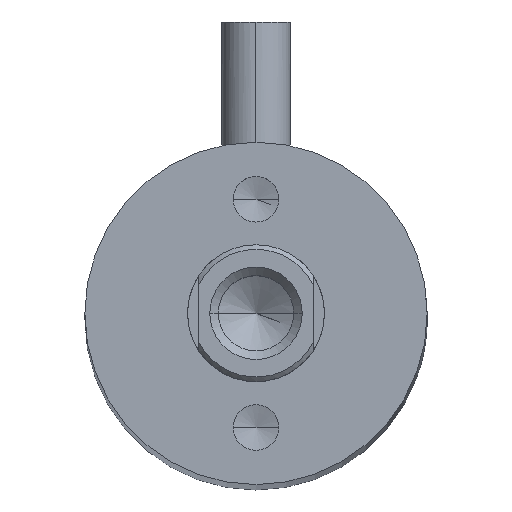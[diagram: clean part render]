
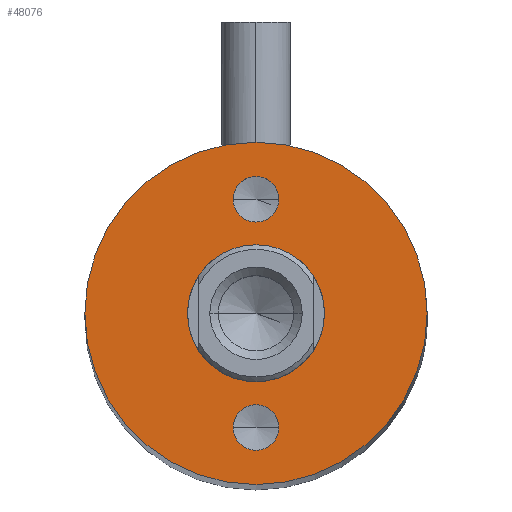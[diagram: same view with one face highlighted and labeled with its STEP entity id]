
A CAD part, top view. The second image highlights one B-rep face of the part: STEP entity #48076.
In plain terms, the highlighted planar face has unit normal (0, 0, 1).
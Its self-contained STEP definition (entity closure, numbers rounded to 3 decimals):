
#11 = EDGE_CURVE ( 'NONE', #25494, #42954, #5517, .T. ) ;
#620 = CARTESIAN_POINT ( 'NONE',  ( 0., -5., 136.6 ) ) ;
#1164 = CIRCLE ( 'NONE', #9692, 7.5 ) ;
#2182 = CARTESIAN_POINT ( 'NONE',  ( 3., 0., 136.6 ) ) ;
#2311 = AXIS2_PLACEMENT_3D ( 'NONE', #44979, #13424, #44822 ) ;
#3927 = AXIS2_PLACEMENT_3D ( 'NONE', #620, #16580, #20468 ) ;
#4240 = DIRECTION ( 'NONE',  ( 0., 0., 1. ) ) ;
#4498 = EDGE_LOOP ( 'NONE', ( #44372, #41160 ) ) ;
#5517 = CIRCLE ( 'NONE', #2311, 3. ) ;
#5663 = VERTEX_POINT ( 'NONE', #48152 ) ;
#6813 = ORIENTED_EDGE ( 'NONE', *, *, #37596, .F. ) ;
#7596 = CIRCLE ( 'NONE', #32446, 1. ) ;
#8331 = EDGE_CURVE ( 'NONE', #21283, #15723, #45139, .T. ) ;
#8568 = CARTESIAN_POINT ( 'NONE',  ( -7.5, 0., 136.6 ) ) ;
#9415 = EDGE_CURVE ( 'NONE', #21967, #5663, #19595, .T. ) ;
#9692 = AXIS2_PLACEMENT_3D ( 'NONE', #10191, #13750, #21724 ) ;
#10191 = CARTESIAN_POINT ( 'NONE',  ( 0., 0., 136.6 ) ) ;
#10315 = CARTESIAN_POINT ( 'NONE',  ( -3., 0., 136.6 ) ) ;
#10939 = DIRECTION ( 'NONE',  ( 0., 0., 1. ) ) ;
#11034 = AXIS2_PLACEMENT_3D ( 'NONE', #50032, #38534, #26490 ) ;
#11893 = CARTESIAN_POINT ( 'NONE',  ( 1., -5., 136.6 ) ) ;
#13424 = DIRECTION ( 'NONE',  ( 0., 0., 1. ) ) ;
#13750 = DIRECTION ( 'NONE',  ( 0., 0., 1. ) ) ;
#14479 = DIRECTION ( 'NONE',  ( 0., 0., 1. ) ) ;
#15723 = VERTEX_POINT ( 'NONE', #45405 ) ;
#15980 = CARTESIAN_POINT ( 'NONE',  ( -1., -5., 136.6 ) ) ;
#15994 = DIRECTION ( 'NONE',  ( 1., 0., 0. ) ) ;
#16580 = DIRECTION ( 'NONE',  ( 0., 0., 1. ) ) ;
#17629 = CARTESIAN_POINT ( 'NONE',  ( 1., 5., 136.6 ) ) ;
#18108 = ORIENTED_EDGE ( 'NONE', *, *, #8331, .F. ) ;
#18577 = AXIS2_PLACEMENT_3D ( 'NONE', #30680, #19303, #46297 ) ;
#19303 = DIRECTION ( 'NONE',  ( 0., 0., 1. ) ) ;
#19595 = CIRCLE ( 'NONE', #25470, 7.5 ) ;
#20468 = DIRECTION ( 'NONE',  ( 1., 0., 0. ) ) ;
#20566 = EDGE_LOOP ( 'NONE', ( #42449, #24724 ) ) ;
#21283 = VERTEX_POINT ( 'NONE', #17629 ) ;
#21724 = DIRECTION ( 'NONE',  ( 1., 0., 0. ) ) ;
#21967 = VERTEX_POINT ( 'NONE', #8568 ) ;
#22134 = CARTESIAN_POINT ( 'NONE',  ( 0., 0., 136.6 ) ) ;
#22520 = EDGE_CURVE ( 'NONE', #5663, #21967, #1164, .T. ) ;
#23090 = EDGE_LOOP ( 'NONE', ( #23771, #41262 ) ) ;
#23771 = ORIENTED_EDGE ( 'NONE', *, *, #11, .F. ) ;
#24489 = EDGE_LOOP ( 'NONE', ( #18108, #6813 ) ) ;
#24724 = ORIENTED_EDGE ( 'NONE', *, *, #29170, .F. ) ;
#25470 = AXIS2_PLACEMENT_3D ( 'NONE', #22134, #14479, #41641 ) ;
#25494 = VERTEX_POINT ( 'NONE', #10315 ) ;
#26490 = DIRECTION ( 'NONE',  ( 1., 0., 0. ) ) ;
#26749 = AXIS2_PLACEMENT_3D ( 'NONE', #49749, #10939, #38090 ) ;
#27007 = AXIS2_PLACEMENT_3D ( 'NONE', #35344, #39260, #15994 ) ;
#29170 = EDGE_CURVE ( 'NONE', #29927, #45284, #49031, .T. ) ;
#29927 = VERTEX_POINT ( 'NONE', #15980 ) ;
#30680 = CARTESIAN_POINT ( 'NONE',  ( 0., 5., 136.6 ) ) ;
#31683 = CARTESIAN_POINT ( 'NONE',  ( 0., 5., 136.6 ) ) ;
#31892 = CIRCLE ( 'NONE', #11034, 1. ) ;
#32446 = AXIS2_PLACEMENT_3D ( 'NONE', #31683, #4240, #35094 ) ;
#35094 = DIRECTION ( 'NONE',  ( 1., 0., 0. ) ) ;
#35344 = CARTESIAN_POINT ( 'NONE',  ( 0., 0., 136.6 ) ) ;
#36208 = CIRCLE ( 'NONE', #26749, 3. ) ;
#37169 = EDGE_CURVE ( 'NONE', #42954, #25494, #36208, .T. ) ;
#37596 = EDGE_CURVE ( 'NONE', #15723, #21283, #7596, .T. ) ;
#37928 = FACE_BOUND ( 'NONE', #23090, .T. ) ;
#38090 = DIRECTION ( 'NONE',  ( 1., 0., 0. ) ) ;
#38534 = DIRECTION ( 'NONE',  ( 0., 0., 1. ) ) ;
#39260 = DIRECTION ( 'NONE',  ( 0., 0., 1. ) ) ;
#41160 = ORIENTED_EDGE ( 'NONE', *, *, #22520, .T. ) ;
#41262 = ORIENTED_EDGE ( 'NONE', *, *, #37169, .F. ) ;
#41641 = DIRECTION ( 'NONE',  ( 1., 0., 0. ) ) ;
#42144 = FACE_OUTER_BOUND ( 'NONE', #4498, .T. ) ;
#42449 = ORIENTED_EDGE ( 'NONE', *, *, #42774, .F. ) ;
#42772 = FACE_BOUND ( 'NONE', #20566, .T. ) ;
#42774 = EDGE_CURVE ( 'NONE', #45284, #29927, #31892, .T. ) ;
#42954 = VERTEX_POINT ( 'NONE', #2182 ) ;
#44372 = ORIENTED_EDGE ( 'NONE', *, *, #9415, .T. ) ;
#44597 = FACE_BOUND ( 'NONE', #24489, .T. ) ;
#44822 = DIRECTION ( 'NONE',  ( 1., 0., 0. ) ) ;
#44979 = CARTESIAN_POINT ( 'NONE',  ( 0., 0., 136.6 ) ) ;
#45139 = CIRCLE ( 'NONE', #18577, 1. ) ;
#45284 = VERTEX_POINT ( 'NONE', #11893 ) ;
#45405 = CARTESIAN_POINT ( 'NONE',  ( -1., 5., 136.6 ) ) ;
#46297 = DIRECTION ( 'NONE',  ( 1., 0., 0. ) ) ;
#47548 = PLANE ( 'NONE',  #27007 ) ;
#48076 = ADVANCED_FACE ( 'NONE', ( #42772, #44597, #37928, #42144 ), #47548, .T. ) ;
#48152 = CARTESIAN_POINT ( 'NONE',  ( 7.5, 0., 136.6 ) ) ;
#49031 = CIRCLE ( 'NONE', #3927, 1. ) ;
#49749 = CARTESIAN_POINT ( 'NONE',  ( 0., 0., 136.6 ) ) ;
#50032 = CARTESIAN_POINT ( 'NONE',  ( 0., -5., 136.6 ) ) ;
